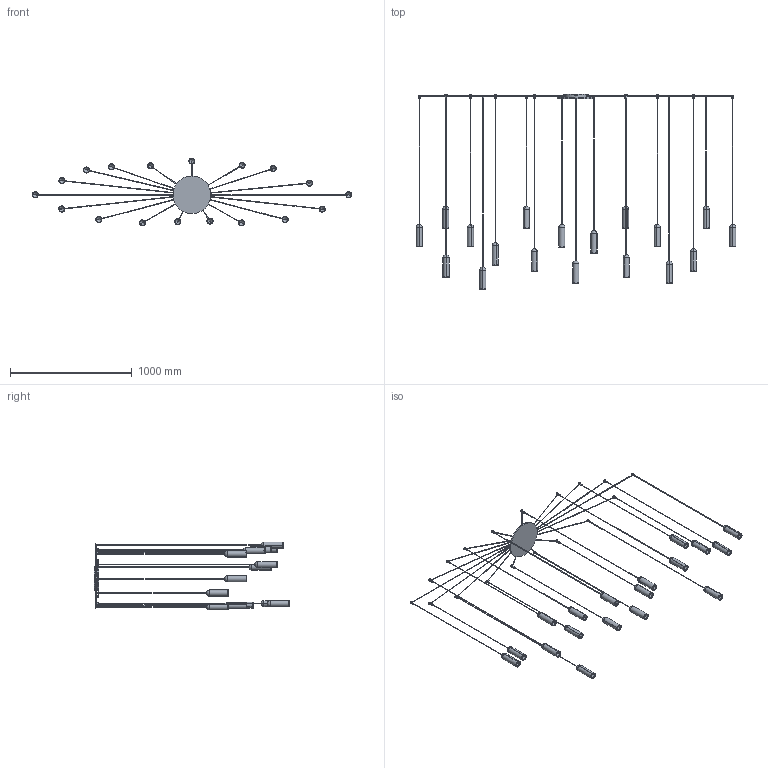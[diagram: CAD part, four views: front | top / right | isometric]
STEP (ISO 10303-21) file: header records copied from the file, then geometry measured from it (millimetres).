
FILE_DESCRIPTION (( 'STEP AP203' ), '1' );
FILE_NAME ('NANA5-00-NANUM_18 sospensione.STEP', '2025-05-05T14:40:11', ( '' ), ( '' ), 'SwSTEP 2.0', 'SolidWorks 2022', '' );
FILE_SCHEMA (( 'CONFIG_CONTROL_DESIGN' ));
Length unit declared in the file: millimetre
Products named in the file (10): NANUM_LAMPADA SINGOLA_H=1450; NANUM_LAMPADA SINGOLA_H=1500; Nanum_Rosone_NANUM_18 sospensione (4000)<A macchina>; NANUM_LAMPADA SINGOLA_H=1900; NANUM_LAMPADA SINGOLA_H=1600; NANUM_LAMPADA SINGOLA_H=1550; NANUM_LAMPADA SINGOLA_H=1700; NANUM_LAMPADA SINGOLA_H=1400; NANA5-00-NANUM_18 sospensione; NANUM_LAMPADA SINGOLA_H=1750
Assembly tree (19 placements, depth 2):
  NANA5-00-NANUM_18 sospensione
    Nanum_Rosone_NANUM_18 sospensione (4000)<A macchina>
    NANUM_LAMPADA SINGOLA_H=1750  x5
    NANUM_LAMPADA SINGOLA_H=1500  x2
    NANUM_LAMPADA SINGOLA_H=1600
    NANUM_LAMPADA SINGOLA_H=1550  x2
    NANUM_LAMPADA SINGOLA_H=1450  x2
    NANUM_LAMPADA SINGOLA_H=1900  x4
    NANUM_LAMPADA SINGOLA_H=1700
    NANUM_LAMPADA SINGOLA_H=1400
Bounding box: 2628 x 1604.5 x 558.5 mm (x, y, z)
Volume: 3245561.7 mm3; surface area: 1702480.9 mm2
Topology: 55 solids, 55 shells, 687 faces, 1492 edges, 844 vertices
Faces by surface type: cylinder 360, plane 147, cone 72, sphere 72, torus 36
Entity records: 10818 total; most frequent: CARTESIAN_POINT 2235, DIRECTION 1688, ORIENTED_EDGE 1352, AXIS2_PLACEMENT_3D 737, EDGE_CURVE 676, VERTEX_POINT 412, EDGE_LOOP 400, ADVANCED_FACE 367
